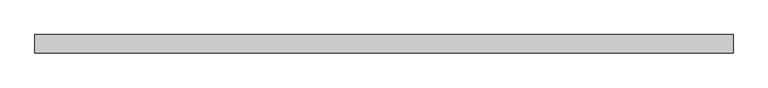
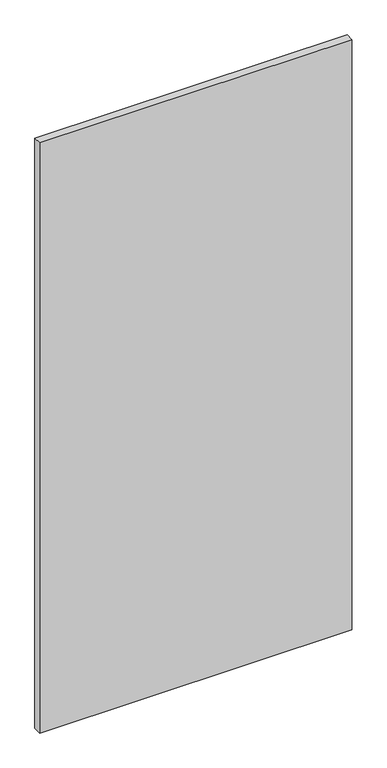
"""IFC4 building model written with IfcOpenShell, lengths in millimetres: plate geometry, Vitré."""

from ifc_helpers import new_model, si_unit, origin, origin_with_axes, place, context, project, spatial, polyline, outline, extrude, source, transform, mapped, element, save


def plate_6baf384d(model_context):
    return source(origin(), model_context, "Body", "SweptSolid", [
        extrude(outline(polyline([(-762.2763644, -20.0), (-762.2763644, 20.0), (762.2763644, 20.0), (762.2763644, -20.0), (-762.2763644, -20.0)])), origin_with_axes(), (0.0, 0.0, 1.0), 3047.625),
    ])


if __name__ == "__main__":
    model = new_model("IFC4")
    model_context = context("Model", 3, world=origin())
    ifc_project = project(units=[si_unit("LENGTHUNIT", "METRE", prefix="MILLI")], contexts=[model_context])
    site = spatial("IfcSite", under=ifc_project)
    building = spatial("IfcBuilding", under=site)
    placement = place(None, origin())
    plate_shape = plate_6baf384d(model_context)
    element("IfcPlate", 1, ObjectType="Vitré", at=placement, inside=building, context=model_context, shape_type="MappedRepresentation", body=[
        mapped(plate_shape, transform((0.0, 0.0, 0.0), x_axis=(1.0, 0.0, 0.0), y_axis=(0.0, 1.0, 0.0), z_axis=(0.0, 0.0, 1.0))),
    ])
    save(model, "model.ifc")
